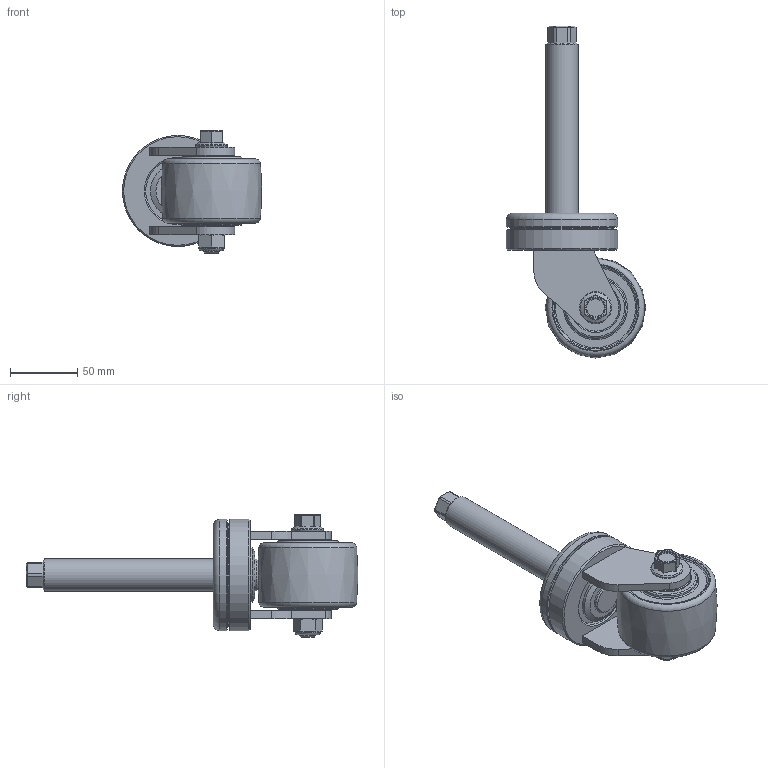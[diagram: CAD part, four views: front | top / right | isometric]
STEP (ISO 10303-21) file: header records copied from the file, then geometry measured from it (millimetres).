
FILE_DESCRIPTION(/* description */ (''),/* implementation_level */ '2;1');
FILE_NAME(/* name */ '\\192.168.10.38\지덕공유\1.기술연구소\1.도면\특주제품도면\9C1111-194_C-GXT-75-SS-NYD-M24x127L_20200217\GXT-75-ASS-M24x127L.stp',/* time_stamp */ '2023-09-05T08:28:06+09:00',/* author */ ('admin'),/* organization */ (''),/* preprocessor_version */ 'ST-DEVELOPER v18.1',/* originating_system */ 'Autodesk Inventor 2021',/* authorisation */ '');
FILE_SCHEMA (('AUTOMOTIVE_DESIGN { 1 0 10303 214 3 1 1 }'));
Length unit declared in the file: millimetre
Products named in the file (6): GXT-75-ASS-M24x114.3L; 94645A230; 5972K314; Component3; Component4; 부품10
Assembly tree (6 placements, depth 2):
  GXT-75-ASS-M24x114.3L
    94645A230
    5972K314  x2
    Component3
    Component4
    부품10
Bounding box: 103.88 x 247.7 x 91.5 mm (x, y, z)
Volume: 432858.4 mm3; surface area: 96491.6 mm2
Topology: 35 solids, 35 shells, 249 faces, 552 edges, 344 vertices
Faces by surface type: plane 81, cylinder 64, cone 47, sphere 30, torus 24, bspline 3
Full cylindrical faces by diameter (mm): 9.727 x5, 11.834 x1, 12 x5, 12.363 x1, 14 x1, 15 x3, 15.2 x2, 22.89 x4, 23.765 x1, 24 x2, 27.11 x4, 35 x4, 41 x1, 48.2 x1, 76.2 x1, 83 x2
Entity records: 7780 total; most frequent: CARTESIAN_POINT 2748, DIRECTION 1062, ORIENTED_EDGE 924, EDGE_CURVE 462, AXIS2_PLACEMENT_3D 449, VERTEX_POINT 302, EDGE_LOOP 254, FACE_OUTER_BOUND 221
